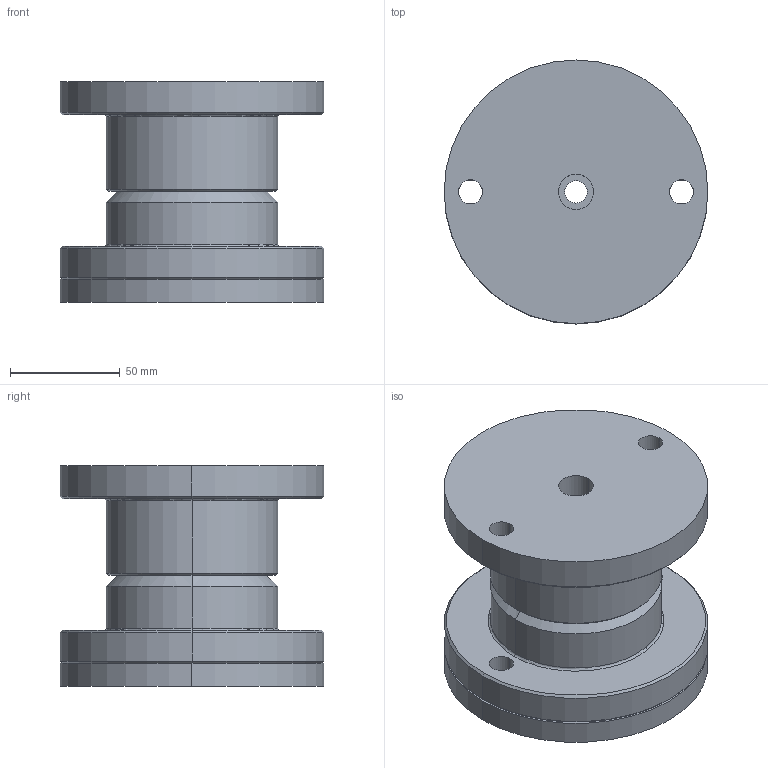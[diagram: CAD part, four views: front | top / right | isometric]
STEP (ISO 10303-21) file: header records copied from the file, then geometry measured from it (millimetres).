
FILE_DESCRIPTION(('CATIA V5 STEP Exchange'),'2;1');
FILE_NAME('C:\Users\Utente\Desktop\IO LAVORO\3D X SITO CF\X 3D SITO CF 27-09-2020\CFCCP\CFCCP12\CFCCP12.stp','2020-10-27T19:59:47+00:00',('none'),('none'),'CATIA Version 5 Release 20 GA (IN-10)','CATIA V5 STEP AP203','none');
FILE_SCHEMA(('CONFIG_CONTROL_DESIGN'));
Length unit declared in the file: millimetre
Products named in the file (1): CFCCP12
Assembly tree (3 placements, depth 2):
  CFCCP12
    #58
    #709
    #1772
Bounding box: 120 x 120 x 100.5 mm (x, y, z)
Volume: 714052.3 mm3; surface area: 104802.1 mm2
Topology: 3 solids, 3 shells, 80 faces, 180 edges, 106 vertices
Faces by surface type: cylinder 42, cone 26, plane 8, torus 4
Entity records: 2384 total; most frequent: CARTESIAN_POINT 506, ORIENTED_EDGE 352, DIRECTION 342, AXIS2_PLACEMENT_3D 188, EDGE_CURVE 176, EDGE_LOOP 106, VERTEX_POINT 106, CIRCLE 102
